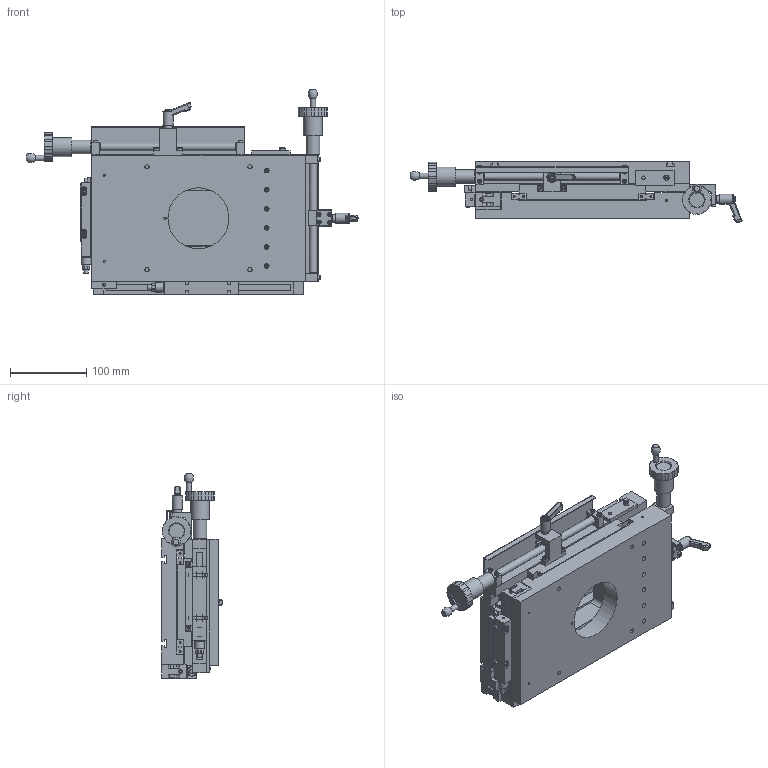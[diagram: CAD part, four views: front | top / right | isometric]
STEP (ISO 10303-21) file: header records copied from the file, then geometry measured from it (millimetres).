
FILE_DESCRIPTION(/* description */ (''),/* implementation_level */ '2;1');
FILE_NAME(/* name */ 'S:\Bureau-Technique\Statif\MA 145-15.stp',/* time_stamp */ '2015-01-09T13:49:28+01:00',/* author */ ('ms'),/* organization */ ('Marcel Aubert'),/* preprocessor_version */ 'ST-DEVELOPER v15.6',/* originating_system */ 'Autodesk Inventor 2015',/* authorisation */ '');
FILE_SCHEMA (('AUTOMOTIVE_DESIGN { 1 0 10303 214 3 1 1 }'));
Products named in the file (1): Pièce1
Bounding box: 435.37 x 79.3 x 268.4 mm (x, y, z)
Volume: 3035134.6 mm3; surface area: 506484.7 mm2
Topology: 1 solids, 76 shells, 2115 faces, 4982 edges, 3254 vertices
Faces by surface type: plane 1158, cylinder 686, cone 202, torus 45, bspline 20, sphere 4
Full cylindrical faces by diameter (mm): 2 x4, 2.013 x58, 2.459 x122, 3 x33, 3.242 x16, 3.5 x31, 4 x25, 4.3 x2, 4.5 x4, 4.8 x4, 5 x2, 5.5 x85, 5.7 x2, 6 x76, 7 x15, 8 x6, 8.5 x2, 10 x10, 10.6 x2, 11 x4, 12 x2, 12.6 x2, 13.2 x2, 18 x2, 25 x2, 80 x1
Entity records: 57268 total; most frequent: CARTESIAN_POINT 10212, DIRECTION 9419, ORIENTED_EDGE 7824, EDGE_CURVE 3909, AXIS2_PLACEMENT_3D 3688, EDGE_LOOP 3303, VERTEX_POINT 2919, STYLED_ITEM 2116
